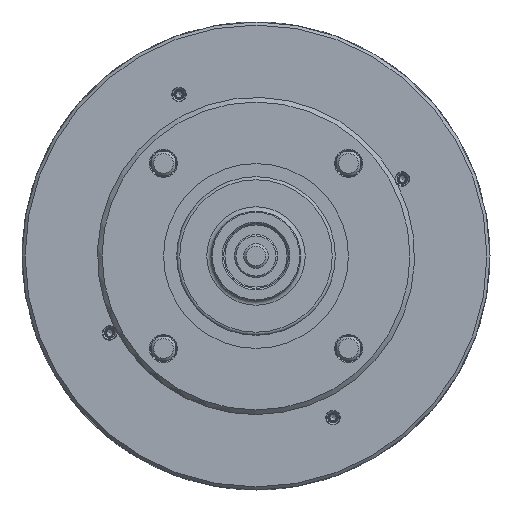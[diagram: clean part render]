
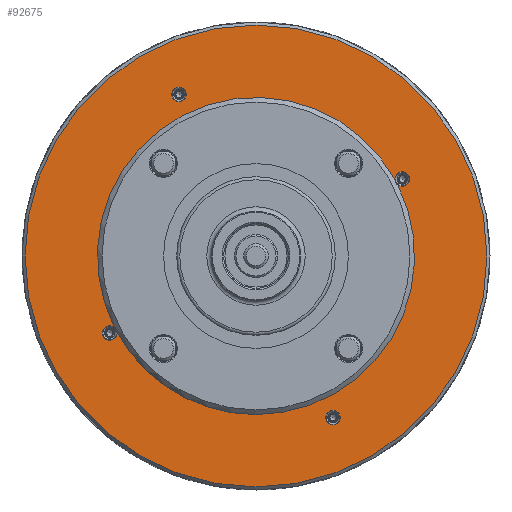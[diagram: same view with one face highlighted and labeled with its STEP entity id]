
A CAD part, left-side view. The second image highlights one B-rep face of the part: STEP entity #92675.
In plain terms, the highlighted planar face has unit normal (-1, 0, 0).
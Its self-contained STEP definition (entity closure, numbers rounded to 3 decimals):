
#2386 = VERTEX_POINT ( 'NONE', #69426 ) ;
#3983 = DIRECTION ( 'NONE',  ( 0., 0., -1. ) ) ;
#6126 = AXIS2_PLACEMENT_3D ( 'NONE', #31518, #97998, #30426 ) ;
#6474 = CIRCLE ( 'NONE', #101763, 150. ) ;
#6643 = CIRCLE ( 'NONE', #26449, 103. ) ;
#8694 = FACE_BOUND ( 'NONE', #99468, .T. ) ;
#9962 = CARTESIAN_POINT ( 'NONE',  ( -107., 90.266, -49.609 ) ) ;
#10950 = EDGE_LOOP ( 'NONE', ( #58164 ) ) ;
#12134 = VERTEX_POINT ( 'NONE', #22139 ) ;
#16629 = CARTESIAN_POINT ( 'NONE',  ( -107., 0., -150. ) ) ;
#16838 = ORIENTED_EDGE ( 'NONE', *, *, #22968, .T. ) ;
#18766 = AXIS2_PLACEMENT_3D ( 'NONE', #41429, #102806, #35183 ) ;
#21727 = DIRECTION ( 'NONE',  ( 0., 0., -1. ) ) ;
#22139 = CARTESIAN_POINT ( 'NONE',  ( -107., -91.997, 46.319 ) ) ;
#22205 = EDGE_CURVE ( 'NONE', #59410, #59410, #6474, .T. ) ;
#22968 = EDGE_CURVE ( 'NONE', #33888, #56764, #6643, .T. ) ;
#26449 = AXIS2_PLACEMENT_3D ( 'NONE', #43186, #42047, #53241 ) ;
#27097 = DIRECTION ( 'NONE',  ( 1., 0., 0. ) ) ;
#27285 = AXIS2_PLACEMENT_3D ( 'NONE', #74960, #76611, #109318 ) ;
#30209 = CARTESIAN_POINT ( 'NONE',  ( -107., 0., 0. ) ) ;
#30426 = DIRECTION ( 'NONE',  ( 0., 0., -1. ) ) ;
#30751 = DIRECTION ( 'NONE',  ( 1., 0., 0. ) ) ;
#31498 = CARTESIAN_POINT ( 'NONE',  ( -107., 91.997, -46.319 ) ) ;
#31518 = CARTESIAN_POINT ( 'NONE',  ( -107., 95., -50. ) ) ;
#33888 = VERTEX_POINT ( 'NONE', #31498 ) ;
#34556 = DIRECTION ( 'NONE',  ( 0., 0., -1. ) ) ;
#35183 = DIRECTION ( 'NONE',  ( 0., 0., -1. ) ) ;
#37783 = EDGE_CURVE ( 'NONE', #60105, #33888, #90646, .T. ) ;
#41429 = CARTESIAN_POINT ( 'NONE',  ( -107., -50., -105. ) ) ;
#42047 = DIRECTION ( 'NONE',  ( 1., 0., 0. ) ) ;
#42138 = CIRCLE ( 'NONE', #18766, 4.75 ) ;
#43030 = DIRECTION ( 'NONE',  ( 1., 0., 0. ) ) ;
#43186 = CARTESIAN_POINT ( 'NONE',  ( -107., 0., 0. ) ) ;
#45231 = PLANE ( 'NONE',  #49843 ) ;
#49843 = AXIS2_PLACEMENT_3D ( 'NONE', #53078, #43030, #34556 ) ;
#50502 = CARTESIAN_POINT ( 'NONE',  ( -107., -90.266, 49.609 ) ) ;
#53078 = CARTESIAN_POINT ( 'NONE',  ( -107., -103., 0. ) ) ;
#53241 = DIRECTION ( 'NONE',  ( 0., 0., -1. ) ) ;
#55168 = CARTESIAN_POINT ( 'NONE',  ( -107., 50., 105. ) ) ;
#55230 = ORIENTED_EDGE ( 'NONE', *, *, #58498, .T. ) ;
#56764 = VERTEX_POINT ( 'NONE', #50502 ) ;
#58164 = ORIENTED_EDGE ( 'NONE', *, *, #100119, .T. ) ;
#58498 = EDGE_CURVE ( 'NONE', #56764, #12134, #66806, .T. ) ;
#58990 = EDGE_CURVE ( 'NONE', #12134, #60105, #90313, .T. ) ;
#59410 = VERTEX_POINT ( 'NONE', #16629 ) ;
#60105 = VERTEX_POINT ( 'NONE', #9962 ) ;
#60287 = DIRECTION ( 'NONE',  ( 0., 0., -1. ) ) ;
#60993 = FACE_OUTER_BOUND ( 'NONE', #104573, .T. ) ;
#63984 = ORIENTED_EDGE ( 'NONE', *, *, #58990, .T. ) ;
#65387 = CARTESIAN_POINT ( 'NONE',  ( -107., -50., -109.75 ) ) ;
#66806 = CIRCLE ( 'NONE', #27285, 4.75 ) ;
#67479 = CIRCLE ( 'NONE', #85491, 4.75 ) ;
#69426 = CARTESIAN_POINT ( 'NONE',  ( -107., 50., 100.25 ) ) ;
#70452 = CARTESIAN_POINT ( 'NONE',  ( -107., 0., 0. ) ) ;
#73259 = ORIENTED_EDGE ( 'NONE', *, *, #37783, .T. ) ;
#74960 = CARTESIAN_POINT ( 'NONE',  ( -107., -95., 50. ) ) ;
#76611 = DIRECTION ( 'NONE',  ( 1., 0., 0. ) ) ;
#77021 = ORIENTED_EDGE ( 'NONE', *, *, #22205, .F. ) ;
#77194 = EDGE_CURVE ( 'NONE', #2386, #2386, #67479, .T. ) ;
#78592 = ORIENTED_EDGE ( 'NONE', *, *, #77194, .T. ) ;
#85491 = AXIS2_PLACEMENT_3D ( 'NONE', #55168, #90137, #3983 ) ;
#88085 = FACE_BOUND ( 'NONE', #10950, .T. ) ;
#90137 = DIRECTION ( 'NONE',  ( 1., 0., 0. ) ) ;
#90313 = CIRCLE ( 'NONE', #97454, 103. ) ;
#90646 = CIRCLE ( 'NONE', #6126, 4.75 ) ;
#92675 = ADVANCED_FACE ( 'NONE', ( #88085, #8694, #60993, #95397 ), #45231, .F. ) ;
#95397 = FACE_BOUND ( 'NONE', #97794, .T. ) ;
#97454 = AXIS2_PLACEMENT_3D ( 'NONE', #30209, #30751, #21727 ) ;
#97794 = EDGE_LOOP ( 'NONE', ( #63984, #73259, #16838, #55230 ) ) ;
#97998 = DIRECTION ( 'NONE',  ( 1., 0., 0. ) ) ;
#99468 = EDGE_LOOP ( 'NONE', ( #78592 ) ) ;
#100119 = EDGE_CURVE ( 'NONE', #110424, #110424, #42138, .T. ) ;
#101763 = AXIS2_PLACEMENT_3D ( 'NONE', #70452, #27097, #60287 ) ;
#102806 = DIRECTION ( 'NONE',  ( 1., 0., 0. ) ) ;
#104573 = EDGE_LOOP ( 'NONE', ( #77021 ) ) ;
#109318 = DIRECTION ( 'NONE',  ( 0., 0., -1. ) ) ;
#110424 = VERTEX_POINT ( 'NONE', #65387 ) ;
